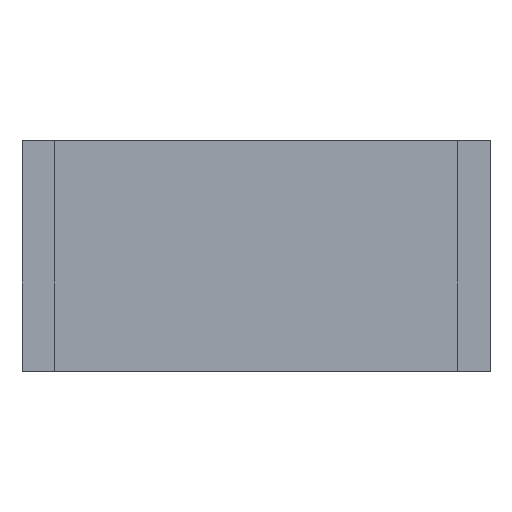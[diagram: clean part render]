
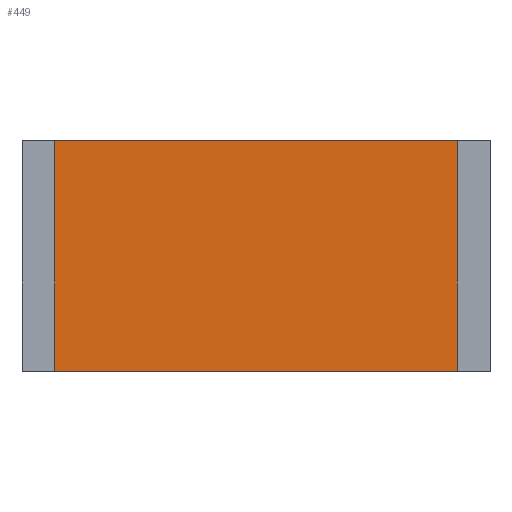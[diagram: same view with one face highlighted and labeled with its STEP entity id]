
A CAD part, top view. The second image highlights one B-rep face of the part: STEP entity #449.
In plain terms, the highlighted planar face has unit normal (0, 0, 1).
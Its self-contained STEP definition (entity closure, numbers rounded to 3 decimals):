
#31=FACE_OUTER_BOUND('',#57,.T.);
#57=EDGE_LOOP('',(#347,#348,#349,#350));
#95=LINE('',#679,#155);
#99=LINE('',#687,#159);
#102=LINE('',#693,#162);
#103=LINE('',#694,#163);
#155=VECTOR('',#559,10.);
#159=VECTOR('',#565,10.);
#162=VECTOR('',#570,10.);
#163=VECTOR('',#571,10.);
#207=VERTEX_POINT('',#677);
#208=VERTEX_POINT('',#678);
#211=VERTEX_POINT('',#686);
#213=VERTEX_POINT('',#692);
#255=EDGE_CURVE('',#207,#208,#95,.T.);
#259=EDGE_CURVE('',#211,#207,#99,.T.);
#262=EDGE_CURVE('',#213,#211,#102,.T.);
#263=EDGE_CURVE('',#213,#208,#103,.T.);
#347=ORIENTED_EDGE('',*,*,#262,.F.);
#348=ORIENTED_EDGE('',*,*,#263,.T.);
#349=ORIENTED_EDGE('',*,*,#255,.F.);
#350=ORIENTED_EDGE('',*,*,#259,.F.);
#423=PLANE('',#497);
#449=ADVANCED_FACE('',(#31),#423,.T.);
#497=AXIS2_PLACEMENT_3D('',#691,#568,#569);
#559=DIRECTION('',(0.,-1.,0.));
#565=DIRECTION('',(1.,0.,0.));
#568=DIRECTION('center_axis',(0.,0.,1.));
#569=DIRECTION('ref_axis',(1.,0.,0.));
#570=DIRECTION('',(0.,1.,0.));
#571=DIRECTION('',(1.,0.,0.));
#677=CARTESIAN_POINT('',(6.34,3.125,0.555));
#678=CARTESIAN_POINT('',(6.34,0.,0.555));
#679=CARTESIAN_POINT('',(6.34,3.125,0.555));
#686=CARTESIAN_POINT('',(0.,3.125,0.555));
#687=CARTESIAN_POINT('',(0.,3.125,0.555));
#691=CARTESIAN_POINT('Origin',(3.17,-0.001,0.555));
#692=CARTESIAN_POINT('',(0.,0.,0.555));
#693=CARTESIAN_POINT('',(0.,0.,0.555));
#694=CARTESIAN_POINT('',(0.,0.,0.555));
